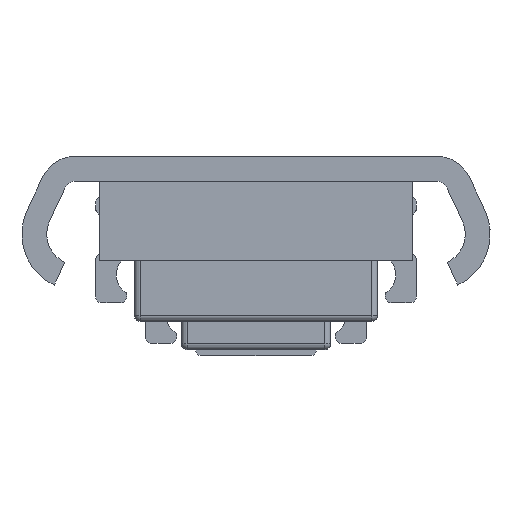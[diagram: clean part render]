
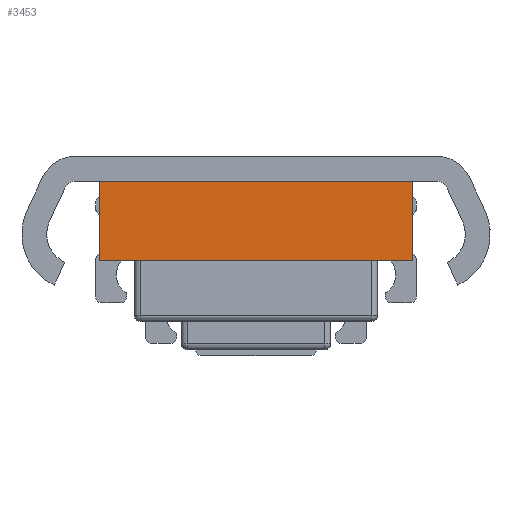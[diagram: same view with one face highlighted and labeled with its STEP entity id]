
A CAD part, left-side view. The second image highlights one B-rep face of the part: STEP entity #3453.
In plain terms, the highlighted planar face has unit normal (-1, 0, 0).
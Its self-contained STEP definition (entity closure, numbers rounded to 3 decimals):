
#93=PLANE('',#3851);
#313=LINE('',#5905,#575);
#314=LINE('',#5907,#576);
#315=LINE('',#5909,#577);
#316=LINE('',#5910,#578);
#575=VECTOR('',#4827,12.7);
#576=VECTOR('',#4828,50.);
#577=VECTOR('',#4829,12.7);
#578=VECTOR('',#4830,50.);
#835=FACE_OUTER_BOUND('',#1083,.T.);
#1083=EDGE_LOOP('',(#2973,#2974,#2975,#2976));
#1649=VERTEX_POINT('',#5903);
#1650=VERTEX_POINT('',#5904);
#1651=VERTEX_POINT('',#5906);
#1652=VERTEX_POINT('',#5908);
#2093=EDGE_CURVE('',#1649,#1650,#313,.T.);
#2094=EDGE_CURVE('',#1651,#1650,#314,.T.);
#2095=EDGE_CURVE('',#1652,#1651,#315,.T.);
#2096=EDGE_CURVE('',#1652,#1649,#316,.T.);
#2973=ORIENTED_EDGE('',*,*,#2093,.T.);
#2974=ORIENTED_EDGE('',*,*,#2094,.F.);
#2975=ORIENTED_EDGE('',*,*,#2095,.F.);
#2976=ORIENTED_EDGE('',*,*,#2096,.T.);
#3453=ADVANCED_FACE('',(#835),#93,.F.);
#3851=AXIS2_PLACEMENT_3D('',#5902,#4825,#4826);
#4825=DIRECTION('center_axis',(1.,0.,0.));
#4826=DIRECTION('ref_axis',(0.,0.,-1.));
#4827=DIRECTION('',(0.,0.,1.));
#4828=DIRECTION('',(0.,-1.,0.));
#4829=DIRECTION('',(0.,0.,1.));
#4830=DIRECTION('',(0.,-1.,0.));
#5902=CARTESIAN_POINT('Origin',(-348.85,25.,-16.7));
#5903=CARTESIAN_POINT('',(-348.85,-25.,-16.7));
#5904=CARTESIAN_POINT('',(-348.85,-25.,-4.));
#5905=CARTESIAN_POINT('',(-348.85,-25.,-16.7));
#5906=CARTESIAN_POINT('',(-348.85,25.,-4.));
#5907=CARTESIAN_POINT('',(-348.85,25.,-4.));
#5908=CARTESIAN_POINT('',(-348.85,25.,-16.7));
#5909=CARTESIAN_POINT('',(-348.85,25.,-16.7));
#5910=CARTESIAN_POINT('',(-348.85,25.,-16.7));
